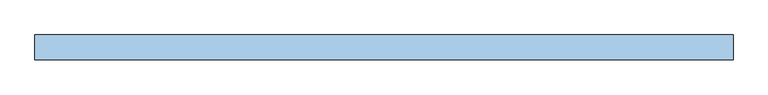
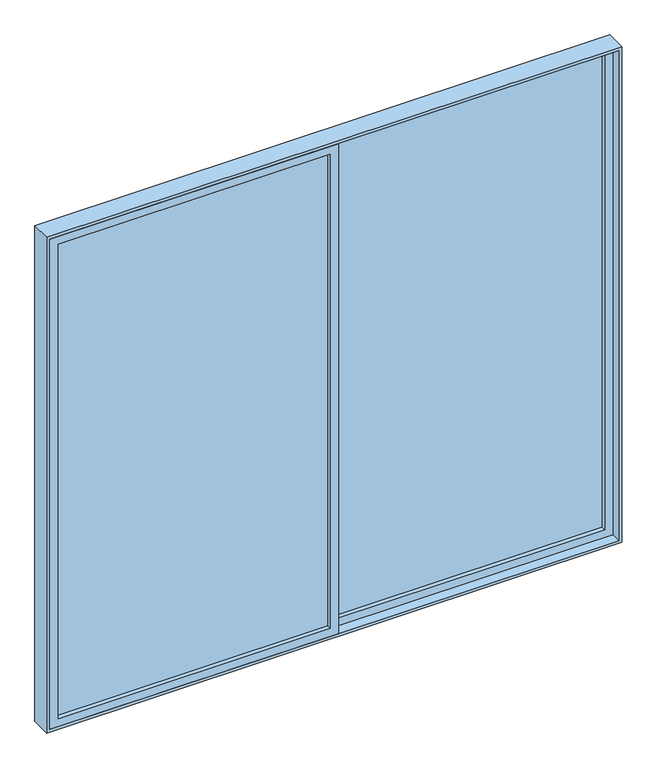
"""IFC4 building model written with IfcOpenShell, lengths in millimetres: window geometry, VENT_ALUM_CORR_2HOJAS_CORRE 1 : VD-8 / CORRE RECAM 2.8 X 2.55."""

from ifc_helpers import new_model, si_unit, frame, origin, place, context, project, spatial, polyline, outline, extrude, source, transform, mapped, element, save


def window_c7a4a54b(model_context):
    return source(origin(), model_context, "Body", "SweptSolid", [
        extrude(outline(polyline([(-20.0, -28.0), (-1345.0, -28.0), (-1345.0, -22.0), (-20.0, -22.0), (-20.0, -28.0)])), frame((0.0, 0.0, 855.0), z_axis=(0.0, 0.0, 1.0), x_axis=(1.0, 0.0, 0.0)), (0.0, 0.0, 1.0), 2440.0),
        extrude(outline(polyline([(815.0, -1385.0), (815.0, 20.0), (3335.0, 20.0), (3335.0, -1385.0), (815.0, -1385.0)]), holes=[polyline([(3295.0, -1345.0), (3295.0, -20.0), (855.0, -20.0), (855.0, -1345.0), (3295.0, -1345.0)])]), frame((0.0, -50.0, 0.0), z_axis=(0.0, 1.0, 0.0), x_axis=(0.0, 0.0, 1.0)), (0.0, 0.0, 1.0), 50.0),
        extrude(outline(polyline([(20.0, 28.0), (1345.0, 28.0), (1345.0, 22.0), (20.0, 22.0), (20.0, 28.0)])), frame((0.0, 0.0, 855.0), z_axis=(0.0, 0.0, 1.0), x_axis=(1.0, 0.0, 0.0)), (0.0, 0.0, 1.0), 2440.0),
        extrude(outline(polyline([(815.0, -20.0), (815.0, 1385.0), (3335.0, 1385.0), (3335.0, -20.0), (815.0, -20.0)]), holes=[polyline([(3295.0, 20.0), (3295.0, 1345.0), (855.0, 1345.0), (855.0, 20.0), (3295.0, 20.0)])]), frame((0.0, 0.0, 0.0), z_axis=(0.0, 1.0, 0.0), x_axis=(0.0, 0.0, 1.0)), (0.0, 0.0, 1.0), 50.0),
        extrude(outline(polyline([(800.0, -1400.0), (800.0, 1400.0), (3350.0, 1400.0), (3350.0, -1400.0), (800.0, -1400.0)]), holes=[polyline([(3335.0, -1385.0), (3335.0, 1385.0), (815.0, 1385.0), (815.0, -1385.0), (3335.0, -1385.0)])]), frame((0.0, -50.0, 0.0), z_axis=(0.0, 1.0, 0.0), x_axis=(0.0, 0.0, 1.0)), (0.0, 0.0, 1.0), 100.0),
    ])


if __name__ == "__main__":
    model = new_model("IFC4")
    model_context = context("Model", 3, world=origin())
    ifc_project = project(units=[si_unit("LENGTHUNIT", "METRE", prefix="MILLI")], contexts=[model_context])
    site = spatial("IfcSite", under=ifc_project)
    building = spatial("IfcBuilding", under=site)
    placement = place(None, origin())
    window_shape = window_c7a4a54b(model_context)
    element("IfcWindow", 1, ObjectType="VENT_ALUM_CORR_2HOJAS_CORRE 1 : VD-8 / CORRE RECAM 2.8 X 2.55", at=placement, inside=building, context=model_context, shape_type="MappedRepresentation", body=[
        mapped(window_shape, transform((0.0, 0.0, 0.0), x_axis=(1.0, 0.0, 0.0), y_axis=(0.0, 1.0, 0.0), z_axis=(0.0, 0.0, 1.0))),
    ])
    save(model, "model.ifc")
